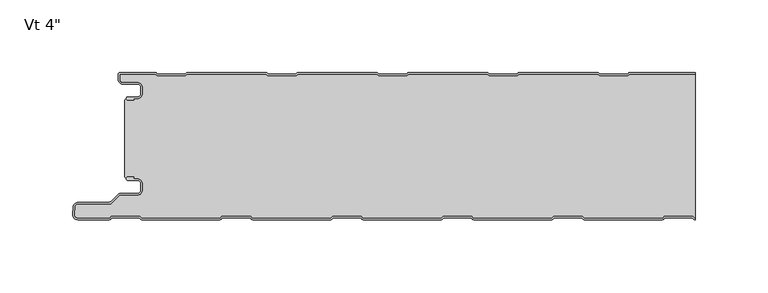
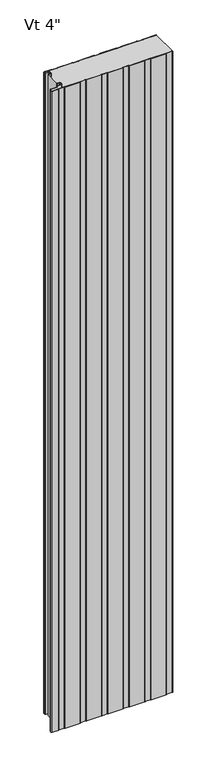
"""IFC4 building model written with IfcOpenShell, lengths in millimetres: plate geometry."""

from ifc_helpers import new_model, si_unit, point, frame, frame_2d, origin, origin_with_axes, place, context, project, spatial, polyline, circle_curve, trimmed, segment, composite_curve, outline, extrude, source, transform, mapped, element, save
from ifc_brep_helpers import plane_surface, cylinder_surface, revolved_surface, advanced_brep


def plate_50034a83(model_context):
    return source(origin(), model_context, "Body", "SolidModel", [
        advanced_brep(
        [(-194.5686911, -17.0015405, 2400.0), (-195.5686884, -18.0015437, 2400.0), (-194.5686911, -19.0015351, 2400.0), (-190.5684875, -19.0015351, 2400.0), (-190.5684875, -18.0015405, 2400.0), (-187.8762777, -18.0015405, 2400.0), (-184.576282, -14.7015448, 2400.0), (-184.576282, -10.3015536, 2400.0), (-187.8762775, -7.0015581, 2400.0), (-198.2962564, -7.0015581, 2400.0), (-200.0662506, -5.2315639, 2400.0), (-200.0662506, -1.0000163, 2400.0), (-175.565974, -1.0000162, 2400.0), (-174.1803314, -2.2002553, 2400.0), (-154.805165, -2.2002553, 2400.0), (-153.4195321, -1.0000245, 2400.0), (-99.3661167, -1.0000245, 2400.0), (-97.9804838, -2.2002552, 2400.0), (-78.6053174, -2.2002551, 2400.0), (-77.2196845, -1.0000244, 2400.0), (-23.1662691, -1.0000243, 2400.0), (-21.7806362, -2.200255, 2400.0), (-2.4054698, -2.200255, 2400.0), (-1.0198369, -1.0000243, 2400.0), (53.0335785, -1.0000242, 2400.0), (54.4192114, -2.2002549, 2400.0), (73.7943778, -2.2002548, 2400.0), (75.1800107, -1.0000241, 2400.0), (129.2334261, -1.000024, 2400.0), (130.619059, -2.2002547, 2400.0), (149.9942254, -2.2002547, 2400.0), (151.3798583, -1.000024, 2400.0), (196.5999997, -1.0000239, 2400.0), (196.5999997, -2.39e-05, 2400.0), (151.5290095, -2.4e-05, 2400.0), (150.6123926, -0.3418125, 2400.0), (149.6213449, -1.2002547, 2400.0), (130.9919395, -1.2002547, 2400.0), (130.0008918, -0.3418125, 2400.0), (129.0842749, -2.4e-05, 2400.0), (75.3291619, -2.41e-05, 2400.0), (74.412545, -0.3418126, 2400.0), (73.4214973, -1.2002548, 2400.0), (54.7920919, -1.2002549, 2400.0), (53.8010442, -0.3418127, 2400.0), (52.8844273, -2.42e-05, 2400.0), (-0.8706857, -2.43e-05, 2400.0), (-1.7873026, -0.3418128, 2400.0), (-2.7783503, -1.200255, 2400.0), (-21.4077557, -1.200255, 2400.0), (-22.3988034, -0.3418128, 2400.0), (-23.3154203, -2.43e-05, 2400.0), (-77.0705333, -2.44e-05, 2400.0), (-77.9871502, -0.3418129, 2400.0), (-78.9781979, -1.2002551, 2400.0), (-97.6076033, -1.2002552, 2400.0), (-98.598651, -0.341813, 2400.0), (-99.5152679, -2.44e-05, 2400.0), (-153.2703809, -2.45e-05, 2400.0), (-154.1869978, -0.3418131, 2400.0), (-155.1780455, -1.2002553, 2400.0), (-173.8074509, -1.2002553, 2400.0), (-174.7984986, -0.3418131, 2400.0), (-175.7152068, -2.46e-05, 2400.0), (-199.6662544, -1.63e-05, 2400.0), (-201.0662506, -1.4000124, 2400.0), (-201.0662506, -5.2315639, 2400.0), (-198.2962564, -8.0015581, 2400.0), (-187.8762775, -8.0015581, 2400.0), (-185.576282, -10.3015536, 2400.0), (-185.576282, -14.7015448, 2400.0), (-187.8762777, -17.0015405, 2400.0), (-194.5686911, -17.0015405, 0.0), (-187.8762777, -17.0015405, 0.0), (-185.576282, -14.7015448, 0.0), (-185.576282, -10.3015536, 0.0), (-187.8762775, -8.0015581, 0.0), (-198.2962564, -8.0015581, 0.0), (-201.0662506, -5.2315639, 0.0), (-201.0662506, -1.4000124, 0.0), (-199.6662544, -1.63e-05, 0.0), (-175.7151155, -1.62e-05, 0.0), (-174.7984986, -0.3418131, 0.0), (-173.8074509, -1.2002553, 0.0), (-155.1780455, -1.2002553, 0.0), (-154.1869978, -0.3418131, 0.0), (-153.2703809, -2.45e-05, 0.0), (-99.5152679, -2.45e-05, 0.0), (-98.598651, -0.341813, 0.0), (-97.6076033, -1.2002552, 0.0), (-78.9781979, -1.2002551, 0.0), (-77.9871502, -0.3418129, 0.0), (-77.0705333, -2.44e-05, 0.0), (-23.3154203, -2.43e-05, 0.0), (-22.3988034, -0.3418128, 0.0), (-21.4077557, -1.200255, 0.0), (-2.7783503, -1.200255, 0.0), (-1.7873026, -0.3418128, 0.0), (-0.8706857, -2.43e-05, 0.0), (52.8844273, -2.42e-05, 0.0), (53.8010442, -0.3418127, 0.0), (54.7920919, -1.2002549, 0.0), (73.4214973, -1.2002548, 0.0), (74.412545, -0.3418126, 0.0), (75.3291619, -2.41e-05, 0.0), (129.0842749, -2.4e-05, 0.0), (130.0008918, -0.3418125, 0.0), (130.9919395, -1.2002547, 0.0), (149.6213449, -1.2002547, 0.0), (150.6123926, -0.3418125, 0.0), (151.5290095, -2.4e-05, 0.0), (196.5999997, -2.39e-05, 0.0), (196.5999997, -1.0000239, 0.0), (151.3798583, -1.000024, 0.0), (149.9942254, -2.2002547, 0.0), (130.619059, -2.2002547, 0.0), (129.2334261, -1.000024, 0.0), (75.1800107, -1.0000241, 0.0), (73.7943778, -2.2002548, 0.0), (54.4192114, -2.2002549, 0.0), (53.0335785, -1.0000242, 0.0), (-1.0198369, -1.0000243, 0.0), (-2.4054698, -2.200255, 0.0), (-21.7806362, -2.200255, 0.0), (-23.1662691, -1.0000243, 0.0), (-77.2196845, -1.0000244, 0.0), (-78.6053174, -2.2002551, 0.0), (-97.9804838, -2.2002552, 0.0), (-99.3661167, -1.0000245, 0.0), (-153.4195321, -1.0000245, 0.0), (-154.805165, -2.2002553, 0.0), (-174.1803314, -2.2002553, 0.0), (-175.565974, -1.0000162, 0.0), (-200.0662506, -1.0000163, 0.0), (-200.0662506, -5.2315639, 0.0), (-198.2962564, -7.0015581, 0.0), (-187.8762775, -7.0015581, 0.0), (-184.576282, -10.3015536, 0.0), (-184.576282, -14.7015448, 0.0), (-187.8762777, -18.0015405, 0.0), (-190.5684875, -18.0015405, 0.0), (-190.5684875, -19.0015351, 0.0), (-194.5686911, -19.0015351, 0.0), (-195.5686883, -18.0015438, 0.0)],
        [
            (0, 1, circle_curve(frame((-194.5686911, -18.0015378, 2400.0), z_axis=(0.0, 0.0, 1.0), x_axis=(1.0, 1.7886562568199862e-09, 0.0)), 0.9999973)),
            (1, 2, circle_curve(frame((-194.5686911, -18.0015379, 2400.0), z_axis=(0.0, 0.0, 1.0), x_axis=(1.0, 1.7886562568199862e-09, 0.0)), 0.9999972)),
            (2, 3),
            (3, 4),
            (4, 5),
            (5, 6, circle_curve(frame((-187.8762777, -14.7015448, 2400.0), z_axis=(0.0, 0.0, 1.0), x_axis=(1.0, 1.7886562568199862e-09, 0.0)), 3.2999957)),
            (6, 7),
            (7, 8, circle_curve(frame((-187.8762775, -10.3015536, 2400.0), z_axis=(0.0, 0.0, 1.0), x_axis=(1.0, 1.7886562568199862e-09, 0.0)), 3.2999955)),
            (8, 9),
            (9, 10, circle_curve(frame((-198.2962564, -5.2315639, 2400.0), z_axis=(0.0, 0.0, -1.0), x_axis=(1.0, 1.7886562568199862e-09, 0.0)), 1.7699942)),
            (10, 11),
            (11, 12),
            (12, 13),
            (13, 14),
            (14, 15),
            (15, 16),
            (16, 17),
            (17, 18),
            (18, 19),
            (19, 20),
            (20, 21),
            (21, 22),
            (22, 23),
            (23, 24),
            (24, 25),
            (25, 26),
            (26, 27),
            (27, 28),
            (28, 29),
            (29, 30),
            (30, 31),
            (31, 32),
            (32, 33),
            (33, 34),
            (34, 35, circle_curve(frame((151.5290095, -1.4000212, 2400.0), z_axis=(0.0, 0.0, 1.0), x_axis=(1.0, 1.7886562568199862e-09, 0.0)), 1.3999972)),
            (35, 36),
            (36, 37),
            (37, 38),
            (38, 39, circle_curve(frame((129.084275, -1.4000212, 2400.0), z_axis=(0.0, 0.0, 1.0), x_axis=(1.0, 1.7886562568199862e-09, 0.0)), 1.3999972)),
            (39, 40),
            (40, 41, circle_curve(frame((75.3291619, -1.4000213, 2400.0), z_axis=(0.0, 0.0, 1.0), x_axis=(1.0, 1.7886562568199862e-09, 0.0)), 1.3999972)),
            (41, 42),
            (42, 43),
            (43, 44),
            (44, 45, circle_curve(frame((52.8844274, -1.4000214, 2400.0), z_axis=(0.0, 0.0, 1.0), x_axis=(1.0, 1.7886562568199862e-09, 0.0)), 1.3999972)),
            (45, 46),
            (46, 47, circle_curve(frame((-0.8706857, -1.4000215, 2400.0), z_axis=(0.0, 0.0, 1.0), x_axis=(1.0, 1.7886562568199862e-09, 0.0)), 1.3999972)),
            (47, 48),
            (48, 49),
            (49, 50),
            (50, 51, circle_curve(frame((-23.3154202, -1.4000215, 2400.0), z_axis=(0.0, 0.0, 1.0), x_axis=(1.0, 1.7886562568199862e-09, 0.0)), 1.3999972)),
            (51, 52),
            (52, 53, circle_curve(frame((-77.0705333, -1.4000216, 2400.0), z_axis=(0.0, 0.0, 1.0), x_axis=(1.0, 1.7886562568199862e-09, 0.0)), 1.3999972)),
            (53, 54),
            (54, 55),
            (55, 56),
            (56, 57, circle_curve(frame((-99.5152678, -1.4000216, 2400.0), z_axis=(0.0, 0.0, 1.0), x_axis=(1.0, 1.7886562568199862e-09, 0.0)), 1.3999972)),
            (57, 58),
            (58, 59, circle_curve(frame((-153.2703809, -1.4000217, 2400.0), z_axis=(0.0, 0.0, 1.0), x_axis=(1.0, 1.7886562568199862e-09, 0.0)), 1.3999972)),
            (59, 60),
            (60, 61),
            (61, 62),
            (62, 63, circle_curve(frame((-175.7151154, -1.4000218, 2400.0), z_axis=(0.0, 0.0, 1.0), x_axis=(1.0, 1.7886562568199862e-09, 0.0)), 1.3999972)),
            (63, 64),
            (64, 65, circle_curve(frame((-199.6662544, -1.4000124, 2400.0), z_axis=(0.0, 0.0, 1.0), x_axis=(1.0, 1.7886562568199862e-09, 0.0)), 1.3999962)),
            (65, 66),
            (66, 67, circle_curve(frame((-198.2962564, -5.2315639, 2400.0), z_axis=(0.0, 0.0, 1.0), x_axis=(1.0, 1.7886562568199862e-09, 0.0)), 2.7699942)),
            (67, 68),
            (68, 69, circle_curve(frame((-187.8762775, -10.3015536, 2400.0), z_axis=(0.0, 0.0, -1.0), x_axis=(1.0, 1.7886562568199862e-09, 0.0)), 2.2999955)),
            (69, 70),
            (70, 71, circle_curve(frame((-187.8762777, -14.7015448, 2400.0), z_axis=(0.0, 0.0, -1.0), x_axis=(1.0, 1.7886562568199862e-09, 0.0)), 2.2999957)),
            (71, 0),
            (72, 73),
            (73, 74, circle_curve(frame((-187.8762777, -14.7015448, 0.0), z_axis=(0.0, 0.0, 1.0), x_axis=(1.0, 1.7886562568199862e-09, 0.0)), 2.2999957)),
            (74, 75),
            (75, 76, circle_curve(frame((-187.8762775, -10.3015536, 0.0), z_axis=(0.0, 0.0, 1.0), x_axis=(1.0, 1.7886562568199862e-09, 0.0)), 2.2999955)),
            (76, 77),
            (77, 78, circle_curve(frame((-198.2962564, -5.2315639, 0.0), z_axis=(0.0, 0.0, -1.0), x_axis=(1.0, 1.7886562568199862e-09, 0.0)), 2.7699942)),
            (78, 79),
            (79, 80, circle_curve(frame((-199.6662544, -1.4000124, 0.0), z_axis=(0.0, 0.0, -1.0), x_axis=(1.0, 1.7886562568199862e-09, 0.0)), 1.3999962)),
            (80, 81),
            (81, 82, circle_curve(frame((-175.7151154, -1.4000218, 0.0), z_axis=(0.0, 0.0, -1.0), x_axis=(1.0, 1.7886562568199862e-09, 0.0)), 1.3999972)),
            (82, 83),
            (83, 84),
            (84, 85),
            (85, 86, circle_curve(frame((-153.2703809, -1.4000217, 0.0), z_axis=(0.0, 0.0, -1.0), x_axis=(1.0, 1.7886562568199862e-09, 0.0)), 1.3999972)),
            (86, 87),
            (87, 88, circle_curve(frame((-99.5152678, -1.4000216, 0.0), z_axis=(0.0, 0.0, -1.0), x_axis=(1.0, 1.7886562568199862e-09, 0.0)), 1.3999972)),
            (88, 89),
            (89, 90),
            (90, 91),
            (91, 92, circle_curve(frame((-77.0705333, -1.4000216, 0.0), z_axis=(0.0, 0.0, -1.0), x_axis=(1.0, 1.7886562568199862e-09, 0.0)), 1.3999972)),
            (92, 93),
            (93, 94, circle_curve(frame((-23.3154202, -1.4000215, 0.0), z_axis=(0.0, 0.0, -1.0), x_axis=(1.0, 1.7886562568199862e-09, 0.0)), 1.3999972)),
            (94, 95),
            (95, 96),
            (96, 97),
            (97, 98, circle_curve(frame((-0.8706857, -1.4000215, 0.0), z_axis=(0.0, 0.0, -1.0), x_axis=(1.0, 1.7886562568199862e-09, 0.0)), 1.3999972)),
            (98, 99),
            (99, 100, circle_curve(frame((52.8844274, -1.4000214, 0.0), z_axis=(0.0, 0.0, -1.0), x_axis=(1.0, 1.7886562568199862e-09, 0.0)), 1.3999972)),
            (100, 101),
            (101, 102),
            (102, 103),
            (103, 104, circle_curve(frame((75.3291619, -1.4000213, 0.0), z_axis=(0.0, 0.0, -1.0), x_axis=(1.0, 1.7886562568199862e-09, 0.0)), 1.3999972)),
            (104, 105),
            (105, 106, circle_curve(frame((129.084275, -1.4000212, 0.0), z_axis=(0.0, 0.0, -1.0), x_axis=(1.0, 1.7886562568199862e-09, 0.0)), 1.3999972)),
            (106, 107),
            (107, 108),
            (108, 109),
            (109, 110, circle_curve(frame((151.5290095, -1.4000212, 0.0), z_axis=(0.0, 0.0, -1.0), x_axis=(1.0, 1.7886562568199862e-09, 0.0)), 1.3999972)),
            (110, 111),
            (111, 112),
            (112, 113),
            (113, 114),
            (114, 115),
            (115, 116),
            (116, 117),
            (117, 118),
            (118, 119),
            (119, 120),
            (120, 121),
            (121, 122),
            (122, 123),
            (123, 124),
            (124, 125),
            (125, 126),
            (126, 127),
            (127, 128),
            (128, 129),
            (129, 130),
            (130, 131),
            (131, 132),
            (132, 133),
            (133, 134),
            (134, 135, circle_curve(frame((-198.2962564, -5.2315639, 0.0), z_axis=(0.0, 0.0, 1.0), x_axis=(1.0, 1.7886562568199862e-09, 0.0)), 1.7699942)),
            (135, 136),
            (136, 137, circle_curve(frame((-187.8762775, -10.3015536, 0.0), z_axis=(0.0, 0.0, -1.0), x_axis=(1.0, 1.7886562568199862e-09, 0.0)), 3.2999955)),
            (137, 138),
            (138, 139, circle_curve(frame((-187.8762777, -14.7015448, 0.0), z_axis=(0.0, 0.0, -1.0), x_axis=(1.0, 1.7886562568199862e-09, 0.0)), 3.2999957)),
            (139, 140),
            (140, 141),
            (141, 142),
            (142, 143, circle_curve(frame((-194.5686911, -18.0015379, 0.0), z_axis=(0.0, 0.0, -1.0), x_axis=(1.0, 1.7886562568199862e-09, 0.0)), 0.9999972)),
            (143, 72, circle_curve(frame((-194.5686911, -18.0015378, 0.0), z_axis=(0.0, 0.0, -1.0), x_axis=(1.0, 1.7886562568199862e-09, 0.0)), 0.9999973)),
            (32, 112),
            (111, 33),
            (71, 73),
            (72, 0),
            (70, 74),
            (69, 75),
            (68, 76),
            (67, 77),
            (66, 78),
            (65, 79),
            (64, 80),
            (63, 81),
            (62, 82),
            (61, 83),
            (60, 84),
            (59, 85),
            (58, 86),
            (57, 87),
            (56, 88),
            (55, 89),
            (54, 90),
            (53, 91),
            (52, 92),
            (51, 93),
            (50, 94),
            (49, 95),
            (48, 96),
            (47, 97),
            (46, 98),
            (45, 99),
            (44, 100),
            (43, 101),
            (42, 102),
            (41, 103),
            (40, 104),
            (39, 105),
            (38, 106),
            (37, 107),
            (36, 108),
            (35, 109),
            (34, 110),
            (31, 113),
            (30, 114),
            (29, 115),
            (28, 116),
            (27, 117),
            (26, 118),
            (25, 119),
            (24, 120),
            (23, 121),
            (22, 122),
            (21, 123),
            (20, 124),
            (19, 125),
            (18, 126),
            (17, 127),
            (16, 128),
            (15, 129),
            (14, 130),
            (13, 131),
            (12, 132),
            (11, 133),
            (10, 134),
            (9, 135),
            (8, 136),
            (7, 137),
            (6, 138),
            (5, 139),
            (4, 140),
            (3, 141),
            (2, 142),
            (1, 143),
        ],
        [
            plane_surface(frame((336.8, -2.37e-05, 2400.0), z_axis=(0.0, 0.0, 1.0), x_axis=(-1.7886562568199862e-09, 1.0, 0.0))),
            plane_surface(frame((336.8, -2.37e-05, 0.0), z_axis=(0.0, 0.0, -1.0), x_axis=(-1.7886562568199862e-09, 1.0, 0.0))),
            plane_surface(frame((196.5999999, -111.6000239, 2400.0), z_axis=(1.0, 1.7886562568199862e-09, 0.0), x_axis=(0.0, 0.0, -1.0))),
            plane_surface(frame((-194.5686911, -17.0015405, 2400.0), z_axis=(-1.7886562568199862e-09, 1.0, 0.0), x_axis=(0.0, 0.0, -1.0))),
            revolved_surface(polyline([(-185.576282, -14.701544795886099, 0.0), (-185.576282, -14.701544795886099, 2400.0)]), (-187.8762777, -14.7015448, 2400.0), (0.0, 0.0, -1.0)),
            plane_surface(frame((-185.576282, -14.7015448, 2400.0), z_axis=(-1.0, -1.7886562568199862e-09, 0.0), x_axis=(0.0, 0.0, -1.0))),
            revolved_surface(polyline([(-185.576282, -10.301553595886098, 0.0), (-185.576282, -10.301553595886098, 2400.0)]), (-187.8762775, -10.3015536, 2400.0), (0.0, 0.0, -1.0)),
            plane_surface(frame((-187.8762775, -8.0015581, 2400.0), z_axis=(1.7886562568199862e-09, -1.0, 0.0), x_axis=(0.0, 0.0, -1.0))),
            cylinder_surface(frame((-198.2962564, -5.2315639, 2400.0), z_axis=(0.0, 0.0, 1.0), x_axis=(1.0, 1.7886562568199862e-09, 0.0)), 2.7699942),
            plane_surface(frame((-201.0662506, -5.2315639, 2400.0), z_axis=(-1.0, -1.7886562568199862e-09, 0.0), x_axis=(0.0, 0.0, -1.0))),
            cylinder_surface(frame((-199.6662544, -1.4000124, 2400.0), z_axis=(0.0, 0.0, 1.0), x_axis=(1.0, 1.7886562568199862e-09, 0.0)), 1.3999962),
            plane_surface(frame((-199.6662544, -1.63e-05, 2400.0), z_axis=(-1.7886562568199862e-09, 1.0, 0.0), x_axis=(0.0, 0.0, -1.0))),
            cylinder_surface(frame((-175.7151154, -1.4000218, 2400.0), z_axis=(0.0, 0.0, 1.0), x_axis=(1.0, 1.7886562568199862e-09, 0.0)), 1.3999972),
            plane_surface(frame((-174.7984986, -0.3418131, 2400.0), z_axis=(0.6547276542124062, 0.7558648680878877, 0.0), x_axis=(0.0, 0.0, -1.0))),
            plane_surface(frame((-164.4927482, -1.2002553, 2400.0), z_axis=(-1.7886562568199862e-09, 1.0, 0.0), x_axis=(0.0, 0.0, -1.0))),
            plane_surface(frame((-155.1780455, -1.2002553, 2400.0), z_axis=(-0.654727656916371, 0.7558648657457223, 0.0), x_axis=(0.0, 0.0, -1.0))),
            cylinder_surface(frame((-153.2703809, -1.4000217, 2400.0), z_axis=(0.0, 0.0, 1.0), x_axis=(1.0, 1.7886562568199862e-09, 0.0)), 1.3999972),
            plane_surface(frame((-153.2703809, -2.45e-05, 2400.0), z_axis=(-1.7886512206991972e-09, 1.0, 0.0), x_axis=(0.0, 0.0, -1.0))),
            cylinder_surface(frame((-99.5152678, -1.4000216, 2400.0), z_axis=(0.0, 0.0, 1.0), x_axis=(1.0, 1.7886562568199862e-09, 0.0)), 1.3999972),
            plane_surface(frame((-98.598651, -0.341813, 2400.0), z_axis=(0.6547276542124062, 0.7558648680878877, 0.0), x_axis=(0.0, 0.0, -1.0))),
            plane_surface(frame((-88.2929006, -1.2002551, 2400.0), z_axis=(-1.7886562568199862e-09, 1.0, 0.0), x_axis=(0.0, 0.0, -1.0))),
            plane_surface(frame((-78.9781979, -1.2002551, 2400.0), z_axis=(-0.654727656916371, 0.7558648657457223, 0.0), x_axis=(0.0, 0.0, -1.0))),
            cylinder_surface(frame((-77.0705333, -1.4000216, 2400.0), z_axis=(0.0, 0.0, 1.0), x_axis=(1.0, 1.7886562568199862e-09, 0.0)), 1.3999972),
            plane_surface(frame((-77.0705333, -2.44e-05, 2400.0), z_axis=(-1.7886512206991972e-09, 1.0, 0.0), x_axis=(0.0, 0.0, -1.0))),
            cylinder_surface(frame((-23.3154202, -1.4000215, 2400.0), z_axis=(0.0, 0.0, 1.0), x_axis=(1.0, 1.7886562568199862e-09, 0.0)), 1.3999972),
            plane_surface(frame((-22.3988034, -0.3418128, 2400.0), z_axis=(0.6547276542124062, 0.7558648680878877, 0.0), x_axis=(0.0, 0.0, -1.0))),
            plane_surface(frame((-12.093053, -1.200255, 2400.0), z_axis=(-1.7886562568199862e-09, 1.0, 0.0), x_axis=(0.0, 0.0, -1.0))),
            plane_surface(frame((-2.7783503, -1.200255, 2400.0), z_axis=(-0.654727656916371, 0.7558648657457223, 0.0), x_axis=(0.0, 0.0, -1.0))),
            cylinder_surface(frame((-0.8706857, -1.4000215, 2400.0), z_axis=(0.0, 0.0, 1.0), x_axis=(1.0, 1.7886562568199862e-09, 0.0)), 1.3999972),
            plane_surface(frame((-0.8706857, -2.43e-05, 2400.0), z_axis=(-1.7886512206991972e-09, 1.0, 0.0), x_axis=(0.0, 0.0, -1.0))),
            cylinder_surface(frame((52.8844274, -1.4000214, 2400.0), z_axis=(0.0, 0.0, 1.0), x_axis=(1.0, 1.7886562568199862e-09, 0.0)), 1.3999972),
            plane_surface(frame((53.8010442, -0.3418127, 2400.0), z_axis=(0.6547276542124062, 0.7558648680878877, 0.0), x_axis=(0.0, 0.0, -1.0))),
            plane_surface(frame((64.1067946, -1.2002549, 2400.0), z_axis=(-1.7886562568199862e-09, 1.0, 0.0), x_axis=(0.0, 0.0, -1.0))),
            plane_surface(frame((73.4214973, -1.2002548, 2400.0), z_axis=(-0.654727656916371, 0.7558648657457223, 0.0), x_axis=(0.0, 0.0, -1.0))),
            cylinder_surface(frame((75.3291619, -1.4000213, 2400.0), z_axis=(0.0, 0.0, 1.0), x_axis=(1.0, 1.7886562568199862e-09, 0.0)), 1.3999972),
            plane_surface(frame((75.3291619, -2.41e-05, 2400.0), z_axis=(-1.7886512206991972e-09, 1.0, 0.0), x_axis=(0.0, 0.0, -1.0))),
            cylinder_surface(frame((129.084275, -1.4000212, 2400.0), z_axis=(0.0, 0.0, 1.0), x_axis=(1.0, 1.7886562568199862e-09, 0.0)), 1.3999972),
            plane_surface(frame((130.0008918, -0.3418125, 2400.0), z_axis=(0.6547276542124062, 0.7558648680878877, 0.0), x_axis=(0.0, 0.0, -1.0))),
            plane_surface(frame((140.3066422, -1.2002547, 2400.0), z_axis=(-1.7886562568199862e-09, 1.0, 0.0), x_axis=(0.0, 0.0, -1.0))),
            plane_surface(frame((149.6213449, -1.2002547, 2400.0), z_axis=(-0.654727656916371, 0.7558648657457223, 0.0), x_axis=(0.0, 0.0, -1.0))),
            cylinder_surface(frame((151.5290095, -1.4000212, 2400.0), z_axis=(0.0, 0.0, 1.0), x_axis=(1.0, 1.7886562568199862e-09, 0.0)), 1.3999972),
            plane_surface(frame((151.5290095, -2.4e-05, 2400.0), z_axis=(-1.7886512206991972e-09, 1.0, 0.0), x_axis=(0.0, 0.0, -1.0))),
            plane_surface(frame((205.4332737, -1.0000239, 2400.0), z_axis=(1.7886512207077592e-09, -1.0, 0.0), x_axis=(0.0, 0.0, -1.0))),
            plane_surface(frame((151.3798583, -1.000024, 2400.0), z_axis=(0.654727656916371, -0.7558648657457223, 0.0), x_axis=(0.0, 0.0, -1.0))),
            plane_surface(frame((149.9942254, -2.2002547, 2400.0), z_axis=(1.7886562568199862e-09, -1.0, 0.0), x_axis=(0.0, 0.0, -1.0))),
            plane_surface(frame((130.619059, -2.2002547, 2400.0), z_axis=(-0.6547276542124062, -0.7558648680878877, 0.0), x_axis=(0.0, 0.0, -1.0))),
            plane_surface(frame((129.2334261, -1.000024, 2400.0), z_axis=(1.7886512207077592e-09, -1.0, 0.0), x_axis=(0.0, 0.0, -1.0))),
            plane_surface(frame((75.1800107, -1.0000241, 2400.0), z_axis=(0.654727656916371, -0.7558648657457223, 0.0), x_axis=(0.0, 0.0, -1.0))),
            plane_surface(frame((73.7943778, -2.2002548, 2400.0), z_axis=(1.7886562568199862e-09, -1.0, 0.0), x_axis=(0.0, 0.0, -1.0))),
            plane_surface(frame((54.4192114, -2.2002549, 2400.0), z_axis=(-0.6547276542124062, -0.7558648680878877, 0.0), x_axis=(0.0, 0.0, -1.0))),
            plane_surface(frame((53.0335785, -1.0000242, 2400.0), z_axis=(1.7886512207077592e-09, -1.0, 0.0), x_axis=(0.0, 0.0, -1.0))),
            plane_surface(frame((-1.0198369, -1.0000243, 2400.0), z_axis=(0.654727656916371, -0.7558648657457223, 0.0), x_axis=(0.0, 0.0, -1.0))),
            plane_surface(frame((-2.4054698, -2.200255, 2400.0), z_axis=(1.7886562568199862e-09, -1.0, 0.0), x_axis=(0.0, 0.0, -1.0))),
            plane_surface(frame((-21.7806362, -2.200255, 2400.0), z_axis=(-0.6547276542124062, -0.7558648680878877, 0.0), x_axis=(0.0, 0.0, -1.0))),
            plane_surface(frame((-23.1662691, -1.0000243, 2400.0), z_axis=(1.7886512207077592e-09, -1.0, 0.0), x_axis=(0.0, 0.0, -1.0))),
            plane_surface(frame((-77.2196845, -1.0000244, 2400.0), z_axis=(0.654727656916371, -0.7558648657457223, 0.0), x_axis=(0.0, 0.0, -1.0))),
            plane_surface(frame((-78.6053174, -2.2002551, 2400.0), z_axis=(1.7886562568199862e-09, -1.0, 0.0), x_axis=(0.0, 0.0, -1.0))),
            plane_surface(frame((-97.9804838, -2.2002552, 2400.0), z_axis=(-0.6547276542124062, -0.7558648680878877, 0.0), x_axis=(0.0, 0.0, -1.0))),
            plane_surface(frame((-99.3661167, -1.0000245, 2400.0), z_axis=(1.7886512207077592e-09, -1.0, 0.0), x_axis=(0.0, 0.0, -1.0))),
            plane_surface(frame((-153.4195321, -1.0000245, 2400.0), z_axis=(0.654727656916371, -0.7558648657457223, 0.0), x_axis=(0.0, 0.0, -1.0))),
            plane_surface(frame((-154.805165, -2.2002553, 2400.0), z_axis=(1.7886562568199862e-09, -1.0, 0.0), x_axis=(0.0, 0.0, -1.0))),
            plane_surface(frame((-174.1803314, -2.2002553, 2400.0), z_axis=(-0.6547276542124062, -0.7558648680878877, 0.0), x_axis=(0.0, 0.0, -1.0))),
            plane_surface(frame((-175.565974, -1.0000162, 2400.0), z_axis=(1.7886562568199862e-09, -1.0, 0.0), x_axis=(0.0, 0.0, -1.0))),
            plane_surface(frame((-200.0662506, -1.0000163, 2400.0), z_axis=(1.0, 1.7886562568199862e-09, 0.0), x_axis=(0.0, 0.0, -1.0))),
            revolved_surface(polyline([(-196.5262622, -5.231563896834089, 0.0), (-196.5262622, -5.231563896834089, 2400.0)]), (-198.2962564, -5.2315639, 2400.0), (0.0, 0.0, -1.0)),
            plane_surface(frame((-198.2962564, -7.0015581, 2400.0), z_axis=(-1.7886562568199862e-09, 1.0, 0.0), x_axis=(0.0, 0.0, -1.0))),
            cylinder_surface(frame((-187.8762775, -10.3015536, 2400.0), z_axis=(0.0, 0.0, 1.0), x_axis=(1.0, 1.7886562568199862e-09, 0.0)), 3.2999955),
            plane_surface(frame((-184.576282, -10.3015536, 2400.0), z_axis=(1.0, 1.7886562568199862e-09, 0.0), x_axis=(0.0, 0.0, -1.0))),
            cylinder_surface(frame((-187.8762777, -14.7015448, 2400.0), z_axis=(0.0, 0.0, 1.0), x_axis=(1.0, 1.7886562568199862e-09, 0.0)), 3.2999957),
            plane_surface(frame((-187.8762777, -18.0015405, 2400.0), z_axis=(1.7886562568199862e-09, -1.0, 0.0), x_axis=(0.0, 0.0, -1.0))),
            plane_surface(frame((-190.5684875, -18.0015405, 2400.0), z_axis=(1.0, 1.7886562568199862e-09, 0.0), x_axis=(0.0, 0.0, -1.0))),
            plane_surface(frame((-190.5684875, -19.0015351, 2400.0), z_axis=(1.7886562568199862e-09, -1.0, 0.0), x_axis=(0.0, 0.0, -1.0))),
            cylinder_surface(frame((-194.5686911, -18.0015379, 2400.0), z_axis=(0.0, 0.0, 1.0), x_axis=(1.0, 1.7886562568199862e-09, 0.0)), 0.9999972),
            cylinder_surface(frame((-194.5686911, -18.0015378, 2400.0), z_axis=(0.0, 0.0, 1.0), x_axis=(1.0, 1.7886562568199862e-09, 0.0)), 0.9999973),
        ],
        [
            (0, [[1, 2, 3, 4, 5, 6, 7, 8, 9, 10, 11, 12, 13, 14, 15, 16, 17, 18, 19, 20, 21, 22, 23, 24, 25, 26, 27, 28, 29, 30, 31, 32, 33, 34, 35, 36, 37, 38, 39, 40, 41, 42, 43, 44, 45, 46, 47, 48, 49, 50, 51, 52, 53, 54, 55, 56, 57, 58, 59, 60, 61, 62, 63, 64, 65, 66, 67, 68, 69, 70, 71, 72]]),
            (1, [[73, 74, 75, 76, 77, 78, 79, 80, 81, 82, 83, 84, 85, 86, 87, 88, 89, 90, 91, 92, 93, 94, 95, 96, 97, 98, 99, 100, 101, 102, 103, 104, 105, 106, 107, 108, 109, 110, 111, 112, 113, 114, 115, 116, 117, 118, 119, 120, 121, 122, 123, 124, 125, 126, 127, 128, 129, 130, 131, 132, 133, 134, 135, 136, 137, 138, 139, 140, 141, 142, 143, 144]]),
            (2, [[145, -112, 146, -33]]),
            (3, [[147, -73, 148, -72]]),
            (4, [[149, -74, -147, -71]]),
            (5, [[150, -75, -149, -70]]),
            (6, [[151, -76, -150, -69]]),
            (7, [[152, -77, -151, -68]]),
            (8, [[153, -78, -152, -67]]),
            (9, [[154, -79, -153, -66]]),
            (10, [[155, -80, -154, -65]]),
            (11, [[156, -81, -155, -64]]),
            (12, [[157, -82, -156, -63]]),
            (13, [[158, -83, -157, -62]]),
            (14, [[159, -84, -158, -61]]),
            (15, [[160, -85, -159, -60]]),
            (16, [[161, -86, -160, -59]]),
            (17, [[162, -87, -161, -58]]),
            (18, [[163, -88, -162, -57]]),
            (19, [[164, -89, -163, -56]]),
            (20, [[165, -90, -164, -55]]),
            (21, [[166, -91, -165, -54]]),
            (22, [[167, -92, -166, -53]]),
            (23, [[168, -93, -167, -52]]),
            (24, [[169, -94, -168, -51]]),
            (25, [[170, -95, -169, -50]]),
            (26, [[171, -96, -170, -49]]),
            (27, [[172, -97, -171, -48]]),
            (28, [[173, -98, -172, -47]]),
            (29, [[174, -99, -173, -46]]),
            (30, [[175, -100, -174, -45]]),
            (31, [[176, -101, -175, -44]]),
            (32, [[177, -102, -176, -43]]),
            (33, [[178, -103, -177, -42]]),
            (34, [[179, -104, -178, -41]]),
            (35, [[180, -105, -179, -40]]),
            (36, [[181, -106, -180, -39]]),
            (37, [[182, -107, -181, -38]]),
            (38, [[183, -108, -182, -37]]),
            (39, [[184, -109, -183, -36]]),
            (40, [[185, -110, -184, -35]]),
            (41, [[-34, -146, -111, -185]]),
            (42, [[-113, -145, -32, 186]]),
            (43, [[187, -114, -186, -31]]),
            (44, [[188, -115, -187, -30]]),
            (45, [[189, -116, -188, -29]]),
            (46, [[190, -117, -189, -28]]),
            (47, [[191, -118, -190, -27]]),
            (48, [[192, -119, -191, -26]]),
            (49, [[193, -120, -192, -25]]),
            (50, [[194, -121, -193, -24]]),
            (51, [[195, -122, -194, -23]]),
            (52, [[196, -123, -195, -22]]),
            (53, [[197, -124, -196, -21]]),
            (54, [[198, -125, -197, -20]]),
            (55, [[199, -126, -198, -19]]),
            (56, [[200, -127, -199, -18]]),
            (57, [[201, -128, -200, -17]]),
            (58, [[202, -129, -201, -16]]),
            (59, [[203, -130, -202, -15]]),
            (60, [[204, -131, -203, -14]]),
            (61, [[205, -132, -204, -13]]),
            (62, [[206, -133, -205, -12]]),
            (63, [[207, -134, -206, -11]]),
            (64, [[208, -135, -207, -10]]),
            (65, [[209, -136, -208, -9]]),
            (66, [[210, -137, -209, -8]]),
            (67, [[211, -138, -210, -7]]),
            (68, [[212, -139, -211, -6]]),
            (69, [[213, -140, -212, -5]]),
            (70, [[214, -141, -213, -4]]),
            (71, [[215, -142, -214, -3]]),
            (72, [[216, -143, -215, -2]]),
            (73, [[-148, -144, -216, -1]]),
        ],
    ),
        extrude(outline(composite_curve([segment(polyline([(-207.2415932, -101.6006641), (-229.0521174, -101.6006641)]), True, "CONTINUOUS"), segment(trimmed(circle_curve(frame_2d((-229.0521174, -98.0304248)), 3.5702393), [point((-229.0521174, -101.6006641))], [point((-232.6087618, -97.7191544))], False, "CARTESIAN"), True, "CONTINUOUS"), segment(polyline([(-232.6087618, -97.7191544), (-232.1690673, -92.6951078)]), True, "CONTINUOUS"), segment(trimmed(circle_curve(frame_2d((-228.519839, -93.3059089)), 3.6999926), [point((-232.1690673, -92.6951078))], [point((-228.519839, -89.6059163))], False, "CARTESIAN"), True, "CONTINUOUS"), segment(polyline([(-228.519839, -89.6059163), (-207.3773995, -89.6059163)]), True, "CONTINUOUS"), segment(trimmed(circle_curve(frame_2d((-207.3773995, -88.3059189)), 1.2999974), [point((-207.3773995, -89.6059163))], [point((-206.4581625, -89.2251558))], True, "CARTESIAN"), True, "CONTINUOUS"), segment(polyline([(-206.4581625, -89.2251558), (-201.6297451, -84.3967384)]), True, "CONTINUOUS"), segment(trimmed(circle_curve(frame_2d((-199.7205606, -86.3059229)), 2.6999946), [point((-201.6297451, -84.3967384))], [point((-199.7205606, -83.6059283))], False, "CARTESIAN"), True, "CONTINUOUS"), segment(polyline([(-199.7205606, -83.6059283), (-187.9096715, -83.6059282)]), True, "CONTINUOUS"), segment(trimmed(circle_curve(frame_2d((-187.9096715, -81.2559329)), 2.3499953), [point((-187.9096715, -83.6059282))], [point((-185.5596762, -81.2559329))], True, "CARTESIAN"), True, "CONTINUOUS"), segment(polyline([(-185.5596762, -81.2559329), (-185.5596762, -76.8559417)]), True, "CONTINUOUS"), segment(trimmed(circle_curve(frame_2d((-187.9096715, -76.8559417)), 2.3499953), [point((-185.5596762, -76.8559417))], [point((-187.9096715, -74.5059464))], True, "CARTESIAN"), True, "CONTINUOUS"), segment(polyline([(-187.9096715, -74.5059464), (-194.4289777, -74.5059464)]), True, "CONTINUOUS"), segment(trimmed(circle_curve(frame_2d((-194.3686906, -73.3074642)), 1.1999976), [point((-194.4289777, -74.5059464))], [point((-195.5683, -73.2769423))], False, "CARTESIAN"), True, "CONTINUOUS"), segment(trimmed(circle_curve(frame_2d((-194.3686906, -73.3074642)), 1.1999976), [point((-195.5683, -73.2769423))], [point((-194.367176, -72.1074676))], False, "CARTESIAN"), True, "CONTINUOUS"), segment(polyline([(-194.367176, -72.1074676), (-190.6087826, -72.1074675), (-190.6087826, -73.5059464), (-187.9096715, -73.5059464)]), True, "CONTINUOUS"), segment(trimmed(circle_curve(frame_2d((-187.9096715, -76.8559417)), 3.3499953), [point((-187.9096715, -73.5059464))], [point((-184.5596762, -76.8559417))], False, "CARTESIAN"), True, "CONTINUOUS"), segment(polyline([(-184.5596762, -76.8559417), (-184.5596762, -81.2559329)]), True, "CONTINUOUS"), segment(trimmed(circle_curve(frame_2d((-187.9096715, -81.2559329)), 3.3499953), [point((-184.5596762, -81.2559329))], [point((-187.9096715, -84.6059282))], False, "CARTESIAN"), True, "CONTINUOUS"), segment(polyline([(-187.9096715, -84.6059282), (-199.7205606, -84.6059283)]), True, "CONTINUOUS"), segment(trimmed(circle_curve(frame_2d((-199.7205606, -86.3059229)), 1.6999946), [point((-199.7205606, -84.6059283))], [point((-200.9226383, -85.1038452))], True, "CARTESIAN"), True, "CONTINUOUS"), segment(polyline([(-200.9226383, -85.1038452), (-206.4247094, -90.6059163), (-228.519839, -90.6059163)]), True, "CONTINUOUS"), segment(trimmed(circle_curve(frame_2d((-228.519839, -93.3059089)), 2.6999926), [point((-228.519839, -90.6059163))], [point((-231.1765707, -92.8245183))], True, "CARTESIAN"), True, "CONTINUOUS"), segment(polyline([(-231.1765707, -92.8245183), (-231.6125697, -97.8063392)]), True, "CONTINUOUS"), segment(trimmed(circle_curve(frame_2d((-229.0521174, -98.0304248)), 2.5702393), [point((-231.6125697, -97.8063392))], [point((-229.0521174, -100.6006641))], True, "CARTESIAN"), True, "CONTINUOUS"), segment(polyline([(-229.0521174, -100.6006641), (-207.079096, -100.6006641), (-205.8791275, -99.4006955), (-186.1597149, -99.4006955), (-184.9594842, -100.6009262), (-130.8793525, -100.6009261), (-129.6791218, -99.4006954), (-109.9597093, -99.4006954), (-108.7594785, -100.6009261), (-54.6793468, -100.600926), (-53.4791161, -99.4006953), (-33.7597036, -99.4006952), (-32.5594729, -100.6009259), (21.5206589, -100.6009258), (22.7208896, -99.4006951), (42.4403021, -99.4006951), (43.6405328, -100.6009258), (97.7206646, -100.6009257), (98.9208953, -99.400695), (118.6403078, -99.400695), (119.8405385, -100.6009257), (173.9206703, -100.6009256), (175.120901, -99.4006949), (194.8403135, -99.4006948), (196.0405442, -100.6009255), (196.5999999, -100.6009255), (196.5999999, -101.6009255), (196.2099792, -101.6009255)]), True, "CONTINUOUS"), segment(trimmed(circle_curve(frame_2d((196.2023259, -100.2009492)), 1.3999972), [point((196.2099792, -101.6009255))], [point((195.1582751, -101.1336604))], False, "CARTESIAN"), True, "CONTINUOUS"), segment(polyline([(195.1582751, -101.1336604), (194.4253095, -100.4006948), (175.5346403, -100.4006949), (174.8016956, -101.1336395)]), True, "CONTINUOUS"), segment(trimmed(circle_curve(frame_2d((173.7576448, -100.2009284)), 1.3999972), [point((174.8016956, -101.1336395))], [point((173.7576448, -101.6009256))], False, "CARTESIAN"), True, "CONTINUOUS"), segment(polyline([(173.7576448, -101.6009256), (120.0101316, -101.6009257)]), True, "CONTINUOUS"), segment(trimmed(circle_curve(frame_2d((120.0024783, -100.2009494)), 1.3999972), [point((120.0101316, -101.6009257))], [point((118.9584275, -101.1336605))], False, "CARTESIAN"), True, "CONTINUOUS"), segment(polyline([(118.9584275, -101.1336605), (118.2254619, -100.400695), (99.3347927, -100.400695), (98.601848, -101.1336397)]), True, "CONTINUOUS"), segment(trimmed(circle_curve(frame_2d((97.5577972, -100.2009285)), 1.3999972), [point((98.601848, -101.1336397))], [point((97.5577972, -101.6009257))], False, "CARTESIAN"), True, "CONTINUOUS"), segment(polyline([(97.5577972, -101.6009257), (43.810284, -101.6009258)]), True, "CONTINUOUS"), segment(trimmed(circle_curve(frame_2d((43.8026307, -100.2009495)), 1.3999972), [point((43.810284, -101.6009258))], [point((42.7585799, -101.1336607))], False, "CARTESIAN"), True, "CONTINUOUS"), segment(polyline([(42.7585799, -101.1336607), (42.0256143, -100.4006951), (23.1349451, -100.4006951), (22.4020004, -101.1336398)]), True, "CONTINUOUS"), segment(trimmed(circle_curve(frame_2d((21.3579496, -100.2009286)), 1.3999972), [point((22.4020004, -101.1336398))], [point((21.3579496, -101.6009258))], False, "CARTESIAN"), True, "CONTINUOUS"), segment(polyline([(21.3579496, -101.6009258), (-32.3895636, -101.6009259)]), True, "CONTINUOUS"), segment(trimmed(circle_curve(frame_2d((-32.3972169, -100.2009496)), 1.3999972), [point((-32.3895636, -101.6009259))], [point((-33.4412677, -101.1336608))], False, "CARTESIAN"), True, "CONTINUOUS"), segment(polyline([(-33.4412677, -101.1336608), (-34.1742333, -100.4006952), (-53.0649025, -100.4006953), (-53.7978472, -101.1336399)]), True, "CONTINUOUS"), segment(trimmed(circle_curve(frame_2d((-54.841898, -100.2009288)), 1.3999972), [point((-53.7978472, -101.1336399))], [point((-54.841898, -101.600926))], False, "CARTESIAN"), True, "CONTINUOUS"), segment(polyline([(-54.841898, -101.600926), (-108.5894112, -101.6009261)]), True, "CONTINUOUS"), segment(trimmed(circle_curve(frame_2d((-108.5970645, -100.2009498)), 1.3999972), [point((-108.5894112, -101.6009261))], [point((-109.6411153, -101.1336609))], False, "CARTESIAN"), True, "CONTINUOUS"), segment(polyline([(-109.6411153, -101.1336609), (-110.3740809, -100.4006954), (-129.2647501, -100.4006954), (-129.9976948, -101.1336401)]), True, "CONTINUOUS"), segment(trimmed(circle_curve(frame_2d((-131.0417456, -100.2009289)), 1.3999972), [point((-129.9976948, -101.1336401))], [point((-131.0417456, -101.6009261))], False, "CARTESIAN"), True, "CONTINUOUS"), segment(polyline([(-131.0417456, -101.6009261), (-184.7892588, -101.6009262)]), True, "CONTINUOUS"), segment(trimmed(circle_curve(frame_2d((-184.7969121, -100.2009499)), 1.3999972), [point((-184.7892588, -101.6009262))], [point((-185.8409629, -101.1336611))], False, "CARTESIAN"), True, "CONTINUOUS"), segment(polyline([(-185.8409629, -101.1336611), (-186.5739285, -100.4006955), (-205.4649139, -100.4006955), (-206.1976401, -101.1334218)]), True, "CONTINUOUS"), segment(trimmed(circle_curve(frame_2d((-207.2415932, -100.200798)), 1.3998661), [point((-206.1976401, -101.1334218))], [point((-207.2415932, -101.6006641))], False, "CARTESIAN"), True, "CONTINUOUS")], self_intersect=False)), origin_with_axes(), (0.0, 0.0, 1.0), 2400.0),
        extrude(outline(composite_curve([segment(polyline([(-195.5683, -73.2708996), (-196.5999998, -72.2391997), (-196.5999999, -19.0328554), (-195.5686883, -18.0015438)]), True, "CONTINUOUS"), segment(trimmed(circle_curve(frame_2d((-194.5686911, -18.0015379)), 0.9999972), [point((-195.5686883, -18.0015438))], [point((-194.5686911, -19.0015351))], True, "CARTESIAN"), True, "CONTINUOUS"), segment(polyline([(-194.5686911, -19.0015351), (-190.5684874, -19.0015351), (-190.5684874, -18.0015405), (-187.8762776, -18.0015405)]), True, "CONTINUOUS"), segment(trimmed(circle_curve(frame_2d((-187.8762776, -14.7015448)), 3.2999957), [point((-187.8762776, -18.0015405))], [point((-184.5762819, -14.7015448))], True, "CARTESIAN"), True, "CONTINUOUS"), segment(polyline([(-184.5762819, -14.7015448), (-184.5762819, -10.3015536)]), True, "CONTINUOUS"), segment(trimmed(circle_curve(frame_2d((-187.8762778, -10.3015536)), 3.2999959), [point((-184.5762819, -10.3015536))], [point((-187.8762778, -7.0015577))], True, "CARTESIAN"), True, "CONTINUOUS"), segment(polyline([(-187.8762778, -7.0015577), (-198.2962563, -7.0015578)]), True, "CONTINUOUS"), segment(trimmed(circle_curve(frame_2d((-198.2962563, -5.2315636)), 1.7699942), [point((-198.2962563, -7.0015578))], [point((-200.0662505, -5.2315636))], False, "CARTESIAN"), True, "CONTINUOUS"), segment(polyline([(-200.0662505, -5.2315636), (-200.0662505, -1.0000163), (-175.5659739, -1.0000162), (-174.1803313, -2.2002553), (-154.805165, -2.2002553), (-153.419532, -1.0000245), (-99.3661167, -1.0000245), (-97.9804837, -2.2002552), (-78.6053174, -2.2002551), (-77.2196844, -1.0000244), (-23.1662691, -1.0000243), (-21.7806361, -2.200255), (-2.4054698, -2.200255), (-1.0198368, -1.0000243), (53.0335785, -1.0000242), (54.4192115, -2.2002549), (73.7943778, -2.2002548), (75.1800108, -1.0000241), (129.2334261, -1.000024), (130.6190591, -2.2002547), (149.9942254, -2.2002547), (151.3798584, -1.000024), (196.5999997, -1.0000239), (196.5999999, -100.5948828), (196.0405442, -100.5948828), (194.8403135, -99.3946521), (175.120901, -99.3946522), (173.9206703, -100.5948829), (119.8405385, -100.594883), (118.6403078, -99.3946523), (98.9208953, -99.3946523), (97.7206646, -100.594883), (43.6405328, -100.5948831), (42.4403021, -99.3946524), (22.7208896, -99.3946524), (21.5206589, -100.5948832), (-32.5594729, -100.5948833), (-33.7597036, -99.3946526), (-53.4791161, -99.3946526), (-54.6793468, -100.5948833), (-108.7594785, -100.5948834), (-109.9597093, -99.3946527), (-129.6791218, -99.3946527), (-130.8793525, -100.5948834), (-184.9594842, -100.5948835), (-186.1597149, -99.3946528), (-205.8791275, -99.3946529), (-207.079096, -100.5946214), (-229.0521174, -100.5946214)]), True, "CONTINUOUS"), segment(trimmed(circle_curve(frame_2d((-229.0521174, -98.0243821)), 2.5702393), [point((-229.0521174, -100.5946214))], [point((-231.6125697, -97.8002965))], False, "CARTESIAN"), True, "CONTINUOUS"), segment(polyline([(-231.6125697, -97.8002965), (-231.1765707, -92.8184756)]), True, "CONTINUOUS"), segment(trimmed(circle_curve(frame_2d((-228.519839, -93.2998662)), 2.6999926), [point((-231.1765707, -92.8184756))], [point((-228.519839, -90.5998736))], False, "CARTESIAN"), True, "CONTINUOUS"), segment(polyline([(-228.519839, -90.5998736), (-206.4247094, -90.5998736), (-200.9226383, -85.0978025)]), True, "CONTINUOUS"), segment(trimmed(circle_curve(frame_2d((-199.7205606, -86.2998802)), 1.6999946), [point((-200.9226383, -85.0978025))], [point((-199.7205606, -84.5998856))], False, "CARTESIAN"), True, "CONTINUOUS"), segment(polyline([(-199.7205606, -84.5998856), (-187.9096715, -84.5998856)]), True, "CONTINUOUS"), segment(trimmed(circle_curve(frame_2d((-187.9096715, -81.2498903)), 3.3499953), [point((-187.9096715, -84.5998856))], [point((-184.5596762, -81.2498903))], True, "CARTESIAN"), True, "CONTINUOUS"), segment(polyline([(-184.5596762, -81.2498903), (-184.5596762, -76.8498991)]), True, "CONTINUOUS"), segment(trimmed(circle_curve(frame_2d((-187.9096715, -76.8498991)), 3.3499953), [point((-184.5596762, -76.8498991))], [point((-187.9096715, -73.4999038))], True, "CARTESIAN"), True, "CONTINUOUS"), segment(polyline([(-187.9096715, -73.4999038), (-190.6087826, -73.4999038), (-190.6087826, -72.1014249), (-194.367176, -72.1014249)]), True, "CONTINUOUS"), segment(trimmed(circle_curve(frame_2d((-194.3686906, -73.3014215)), 1.1999976), [point((-194.367176, -72.1014249))], [point((-195.5683, -73.2708996))], True, "CARTESIAN"), True, "CONTINUOUS")], self_intersect=False)), origin_with_axes(), (0.0, 0.0, 1.0), 2400.0),
    ])


if __name__ == "__main__":
    model = new_model("IFC4")
    model_context = context("Model", 3, world=origin())
    ifc_project = project(units=[si_unit("LENGTHUNIT", "METRE", prefix="MILLI")], contexts=[model_context])
    site = spatial("IfcSite", under=ifc_project)
    building = spatial("IfcBuilding", under=site)
    placement = place(None, origin())
    plate_shape = plate_50034a83(model_context)
    element("IfcPlate", 1, ObjectType="KIP-42-Karrier-KP-R19-CP-Vt-SL3-8in_SL : Vt 4\"", at=placement, inside=building, context=model_context, shape_type="MappedRepresentation", body=[
        mapped(plate_shape, transform((0.0, 0.0, 0.0), x_axis=(1.0, 0.0, 0.0), y_axis=(0.0, 1.0, 0.0), z_axis=(0.0, 0.0, 1.0))),
    ])
    save(model, "model.ifc")
